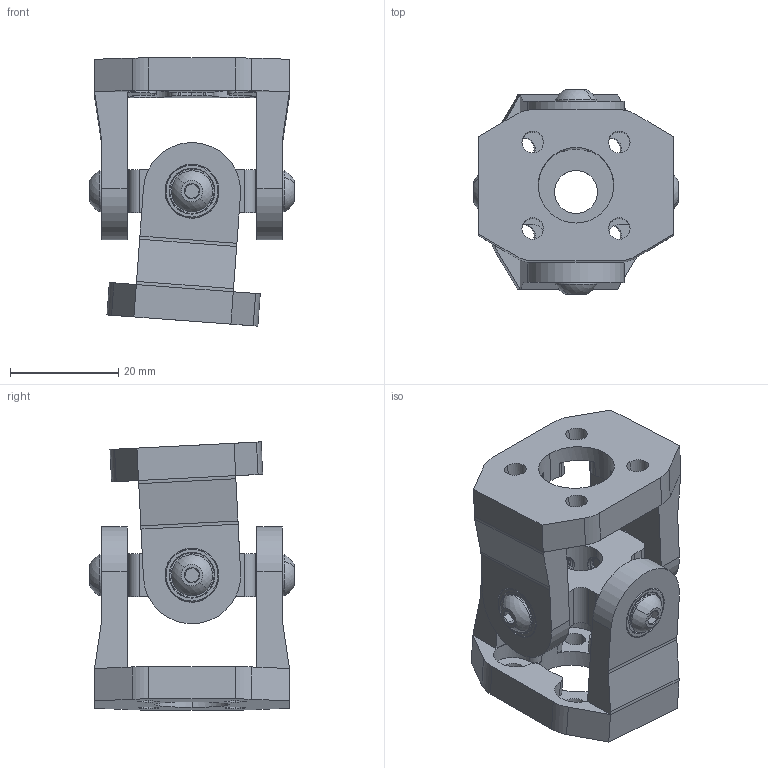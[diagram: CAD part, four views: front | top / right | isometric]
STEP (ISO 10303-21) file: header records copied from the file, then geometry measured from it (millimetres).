
FILE_DESCRIPTION (( 'STEP AP203' ), '1' );
FILE_NAME ('4005-0016-0001 Assembly.STEP', '2018-08-01T15:07:07', ( '' ), ( '' ), 'SwSTEP 2.0', 'SolidWorks 2016', '' );
FILE_SCHEMA (( 'CONFIG_CONTROL_DESIGN' ));
Length unit declared in the file: millimetre
Products named in the file (6): 2802-0004-0012_92095A480; 1600-0410-0004; 2807-0407-1000; 4005-0016-0001 Outer Shell; 4005-0016-0001 Ball; 4005-0016-0001 Assembly
Assembly tree (15 placements, depth 2):
  4005-0016-0001 Assembly
    1600-0410-0004  x4
    2802-0004-0012_92095A480  x4
    2807-0407-1000  x4
    4005-0016-0001 Ball
    4005-0016-0001 Outer Shell  x2
Bounding box: 37.9 x 37.9 x 49.64 mm (x, y, z)
Volume: 19564.2 mm3; surface area: 15649.5 mm2
Topology: 23 solids, 23 shells, 996 faces, 2476 edges, 1574 vertices
Faces by surface type: cylinder 528, plane 184, cone 148, torus 80, bspline 48, sphere 8
Entity records: 51583 total; most frequent: CARTESIAN_POINT 39963, ORIENTED_EDGE 2594, DIRECTION 1933, EDGE_CURVE 1297, VERTEX_POINT 840, AXIS2_PLACEMENT_3D 751, EDGE_LOOP 521, ADVANCED_FACE 482
